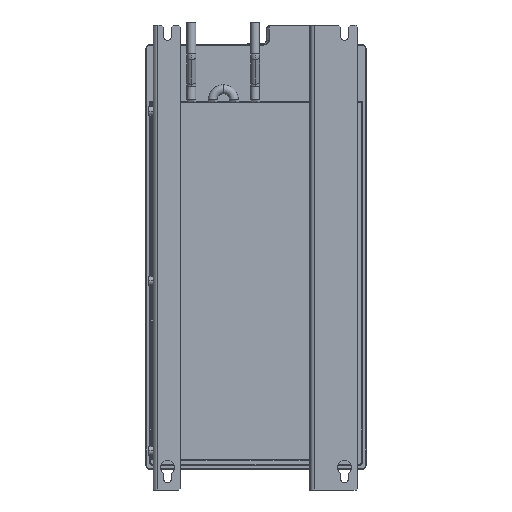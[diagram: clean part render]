
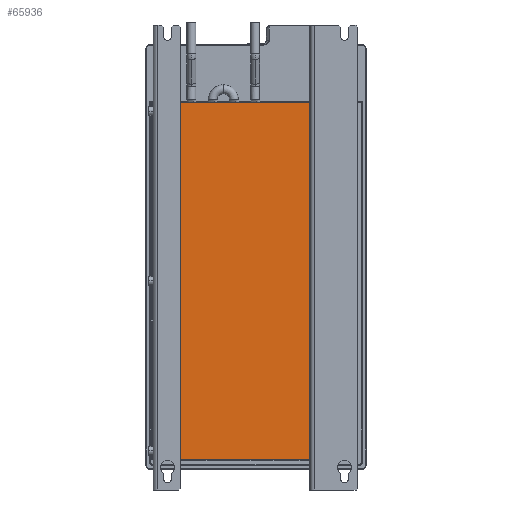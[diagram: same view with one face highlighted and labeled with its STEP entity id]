
A CAD part, front view. The second image highlights one B-rep face of the part: STEP entity #65936.
In plain terms, the highlighted planar face has unit normal (0, -1, 0).
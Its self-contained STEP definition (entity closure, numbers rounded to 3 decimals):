
#2113 = ORIENTED_EDGE ( 'NONE', *, *, #26516, .T. ) ;
#10679 = CARTESIAN_POINT ( 'NONE',  ( 87.5, 1., 0. ) ) ;
#12112 = CARTESIAN_POINT ( 'NONE',  ( 89.5, 1., 0. ) ) ;
#14761 = CARTESIAN_POINT ( 'NONE',  ( 89.5, 1., 403. ) ) ;
#19600 = VERTEX_POINT ( 'NONE', #46326 ) ;
#20553 = DIRECTION ( 'NONE',  ( 0., 0., -1. ) ) ;
#20736 = AXIS2_PLACEMENT_3D ( 'NONE', #88765, #80627, #46471 ) ;
#26516 = EDGE_CURVE ( 'NONE', #19600, #90755, #35773, .T. ) ;
#26810 = CARTESIAN_POINT ( 'NONE',  ( 87.5, 1., 403. ) ) ;
#32366 = CARTESIAN_POINT ( 'NONE',  ( -87.5, 1., 0. ) ) ;
#35171 = PLANE ( 'NONE',  #20736 ) ;
#35773 = LINE ( 'NONE', #68831, #46721 ) ;
#39883 = CARTESIAN_POINT ( 'NONE',  ( 87.5, 1., 405.9 ) ) ;
#43870 = EDGE_LOOP ( 'NONE', ( #93576, #2113, #51275, #62720 ) ) ;
#46326 = CARTESIAN_POINT ( 'NONE',  ( -87.5, 1., 403. ) ) ;
#46471 = DIRECTION ( 'NONE',  ( 0., 0., -1. ) ) ;
#46721 = VECTOR ( 'NONE', #20553, 1000. ) ;
#47373 = VECTOR ( 'NONE', #72954, 1000. ) ;
#50104 = VECTOR ( 'NONE', #76626, 1000. ) ;
#51275 = ORIENTED_EDGE ( 'NONE', *, *, #72162, .F. ) ;
#62720 = ORIENTED_EDGE ( 'NONE', *, *, #91366, .F. ) ;
#65936 = ADVANCED_FACE ( 'NONE', ( #79019 ), #35171, .T. ) ;
#68398 = VERTEX_POINT ( 'NONE', #10679 ) ;
#68831 = CARTESIAN_POINT ( 'NONE',  ( -87.5, 1., 405.9 ) ) ;
#69006 = EDGE_CURVE ( 'NONE', #19600, #101241, #79260, .T. ) ;
#72162 = EDGE_CURVE ( 'NONE', #68398, #90755, #77674, .T. ) ;
#72954 = DIRECTION ( 'NONE',  ( 0., 0., -1. ) ) ;
#76626 = DIRECTION ( 'NONE',  ( -1., 0., 0. ) ) ;
#77674 = LINE ( 'NONE', #12112, #50104 ) ;
#79019 = FACE_OUTER_BOUND ( 'NONE', #43870, .T. ) ;
#79260 = LINE ( 'NONE', #14761, #102783 ) ;
#80627 = DIRECTION ( 'NONE',  ( 0., -1., 0. ) ) ;
#88765 = CARTESIAN_POINT ( 'NONE',  ( 89.5, 1., 590.321 ) ) ;
#89228 = LINE ( 'NONE', #39883, #47373 ) ;
#90755 = VERTEX_POINT ( 'NONE', #32366 ) ;
#91366 = EDGE_CURVE ( 'NONE', #101241, #68398, #89228, .T. ) ;
#93576 = ORIENTED_EDGE ( 'NONE', *, *, #69006, .F. ) ;
#95030 = DIRECTION ( 'NONE',  ( 1., 0., 0. ) ) ;
#101241 = VERTEX_POINT ( 'NONE', #26810 ) ;
#102783 = VECTOR ( 'NONE', #95030, 1000. ) ;
